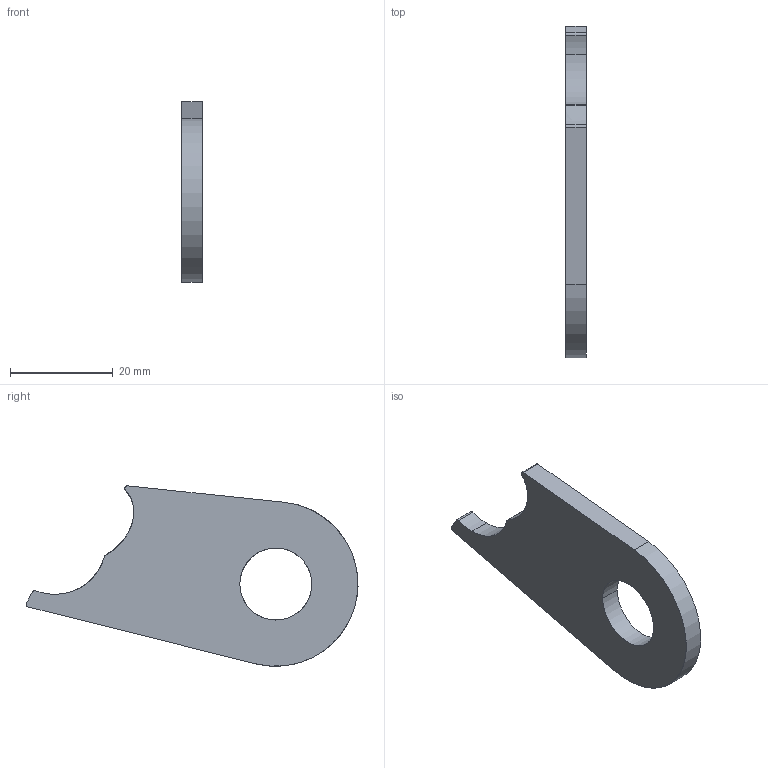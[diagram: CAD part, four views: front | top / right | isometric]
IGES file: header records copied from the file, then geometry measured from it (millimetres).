
Start section: START RECORD GO HERE.
Global section: file name: 20M_DT_ULR.igs; native system: IBM CATIA IGES - CATIA Version 5 Release 19 ; preprocessor: CATIA Version 5 Release 19 ; author: alexb; organization: LAPTOP-PR6NE7IP; date: 20191217.144113; units: millimetre
Bounding box: 4 x 64.61 x 35.09 mm (x, y, z)
Surface area: 3395.4 mm2 (no closed solid volume)
Topology: 0 solids, 0 shells, 16 faces, 84 edges, 84 vertices
Faces by surface type: revolution 9, plane 5, extrusion 2
